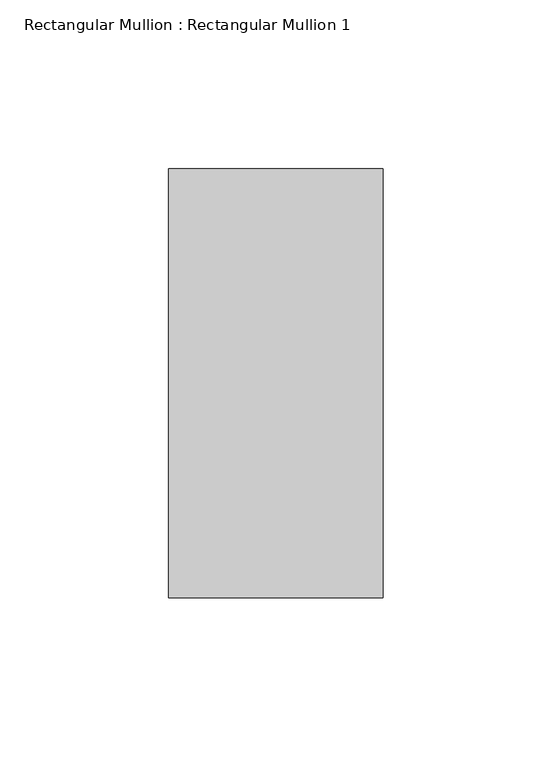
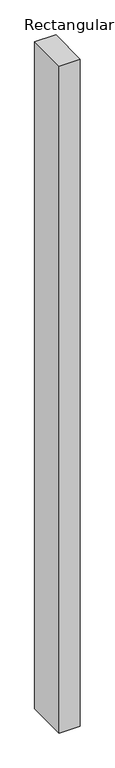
"""IFC4 building model written with IfcOpenShell, lengths in millimetres: member geometry, Rectangular Mullion : Rectangular Mullion 1."""

import ifcopenshell
import ifcopenshell.guid

model = None  # the IFC model being written
_history = None  # IfcOwnerHistory: only IFC2X3 demands one
_inside = {}  # id of a spatial element -> (the spatial element, [elements in it])
_under = {}  # id of a project, library or spatial element -> (it, [spatial elements below it])
_declared = {}  # id of a project -> (the project, [libraries it declares])
_typed = {}  # id of a type object -> (the type object, [elements of that type])
_made_of = {}  # id of a material, layer set ... -> (it, [elements and type objects made of it])


def new_model(schema):
    """Start an empty IFC model of exactly this schema.

    Asked for "IFC4X3", IfcOpenShell would pick the latest addendum, in which some entities
    have other attributes; the version numbers below select the first issue.
    IFC2X3 requires an IfcOwnerHistory on every rooted entity: one is made here for all.
    """
    global model, _history
    if schema == "IFC4X3":
        model = ifcopenshell.file(schema_version=(4, 3, 0, 0))
    else:
        model = ifcopenshell.file(schema=schema)
    _inside.clear()
    _under.clear()
    _declared.clear()
    _typed.clear()
    _made_of.clear()
    _history = None
    if model.schema == "IFC2X3":
        org = make("IfcOrganization", Name="unknown")
        user = make(
            "IfcPersonAndOrganization",
            ThePerson=make("IfcPerson", FamilyName="unknown"),
            TheOrganization=org,
        )
        app = make(
            "IfcApplication",
            ApplicationDeveloper=org,
            Version="unknown",
            ApplicationFullName="unknown",
            ApplicationIdentifier="unknown",
        )
        _history = make(
            "IfcOwnerHistory",
            OwningUser=user,
            OwningApplication=app,
            ChangeAction="ADDED",
            CreationDate=0,
        )
    return model


def make(cls, **values):
    """One entity of the class cls with the attributes given. An attribute that is None is left unset."""
    return model.create_entity(
        cls, **{name: value for name, value in values.items() if value is not None}
    )


def rooted(cls, **values):
    """An entity with a GlobalId (a new one), such as an element, a storey or a relation."""
    return make(cls, GlobalId=ifcopenshell.guid.new(), OwnerHistory=_history, **values)


def si_unit(unit_type, name, prefix=None):
    """IfcSIUnit, for example si_unit("LENGTHUNIT", "METRE", prefix="MILLI")."""
    return make("IfcSIUnit", UnitType=unit_type, Prefix=prefix, Name=name)


def assignment(units):
    """IfcUnitAssignment: the units of a project."""
    return None if units is None else make("IfcUnitAssignment", Units=units)


def point(xyz):
    """IfcCartesianPoint."""
    return None if xyz is None else make("IfcCartesianPoint", Coordinates=xyz)


def direction(xyz):
    """IfcDirection."""
    return None if xyz is None else make("IfcDirection", DirectionRatios=xyz)


def frame(location, z_axis=None, x_axis=None):
    """IfcAxis2Placement3D, a coordinate frame: its origin and axes. An axis left out is left unset."""
    return make(
        "IfcAxis2Placement3D",
        Location=point(location),
        Axis=direction(z_axis),
        RefDirection=direction(x_axis),
    )


def origin():
    """The frame at (0, 0, 0) with its axes left unset."""
    return frame((0.0, 0.0, 0.0))


def place(relative_to, where):
    """IfcLocalPlacement: puts the frame where relative to a parent placement (None: the world)."""
    return make(
        "IfcLocalPlacement", PlacementRelTo=relative_to, RelativePlacement=where
    )


def context(
    kind, dimensions, precision=None, world=None, true_north=None, identifier=None
):
    """IfcGeometricRepresentationContext, for example the 3D "Model" context."""
    return make(
        "IfcGeometricRepresentationContext",
        ContextIdentifier=identifier,
        ContextType=kind,
        CoordinateSpaceDimension=dimensions,
        Precision=precision,
        WorldCoordinateSystem=world,
        TrueNorth=true_north,
    )


def project(units=None, contexts=None):
    """IfcProject with its units and contexts."""
    return rooted(
        "IfcProject",
        Name="project",
        RepresentationContexts=contexts,
        UnitsInContext=assignment(units),
    )


def spatial(cls, under=None, at=None, **own):
    """A site, building, storey or space (cls), placed at a placement, below another one or the project."""
    s = rooted(cls, ObjectPlacement=at, **own)
    if under is not None:
        _under.setdefault(under.id(), (under, []))[1].append(s)
    return s


def polyline(points):
    """IfcPolyline through the points."""
    return make("IfcPolyline", Points=[point(p) for p in points])


def outline(outer, holes=None, kind="AREA"):
    """IfcArbitraryClosedProfileDef: a profile drawn as a closed curve; with holes, ...WithVoids."""
    if holes is None:
        return make("IfcArbitraryClosedProfileDef", ProfileType=kind, OuterCurve=outer)
    return make(
        "IfcArbitraryProfileDefWithVoids",
        ProfileType=kind,
        OuterCurve=outer,
        InnerCurves=holes,
    )


def extrude(swept, where, along, depth):
    """IfcExtrudedAreaSolid: the profile swept, set in the frame where, extruded along a direction by depth."""
    return make(
        "IfcExtrudedAreaSolid",
        SweptArea=swept,
        Position=where,
        ExtrudedDirection=direction(along),
        Depth=depth,
    )


def shape(context_of_items, identifier, shape_type, items):
    """IfcShapeRepresentation: the items that make up one representation, for example the "Body"."""
    return make(
        "IfcShapeRepresentation",
        ContextOfItems=context_of_items,
        RepresentationIdentifier=identifier,
        RepresentationType=shape_type,
        Items=items,
    )


def source(mapping_origin, context_of_items, identifier, shape_type, items):
    """IfcRepresentationMap: a shape defined once, which mapped items show again and again."""
    return make(
        "IfcRepresentationMap",
        MappingOrigin=mapping_origin,
        MappedRepresentation=shape(context_of_items, identifier, shape_type, items),
    )


def transform(
    local_origin,
    x_axis=None,
    y_axis=None,
    z_axis=None,
    scale=None,
    scale2=None,
    scale3=None,
    uniform=True,
):
    """IfcCartesianTransformationOperator3D, or its non-uniform kind. x_axis, y_axis, z_axis: its Axis1, 2, 3."""
    if uniform:
        return make(
            "IfcCartesianTransformationOperator3D",
            Axis1=direction(x_axis),
            Axis2=direction(y_axis),
            LocalOrigin=point(local_origin),
            Scale=scale,
            Axis3=direction(z_axis),
        )
    return make(
        "IfcCartesianTransformationOperator3DnonUniform",
        Axis1=direction(x_axis),
        Axis2=direction(y_axis),
        LocalOrigin=point(local_origin),
        Scale=scale,
        Axis3=direction(z_axis),
        Scale2=scale2,
        Scale3=scale3,
    )


def mapped(mapping_source, mapping_target):
    """IfcMappedItem: shows the shape of a source again, moved by a transform."""
    return make(
        "IfcMappedItem", MappingSource=mapping_source, MappingTarget=mapping_target
    )


def made_of(thing, what):
    """Note that an element or type object is made of a material, layer set ...; save() writes the relation."""
    if what is not None:
        _made_of.setdefault(what.id(), (what, []))[1].append(thing)
    return thing


def element(
    cls,
    number,
    at=None,
    inside=None,
    cuts=None,
    type_object=None,
    material=None,
    context=None,
    identifier="Body",
    shape_type=None,
    held_by="IfcProductDefinitionShape",
    body=None,
    shapes=None,
    **own,
):
    """One element of the class cls, such as IfcWall. Its Tag is "e" and its number.

    at: its placement. inside: the storey or other place that contains it. cuts: it is an
    opening in that element (IfcRelVoidsElement). A single representation is given by context,
    identifier, shape_type and body (its items); several are given by shapes. held_by: the class
    of the entity that holds the representations. save() writes the other relations.
    """
    e = rooted(cls, Tag="e%d" % number, ObjectPlacement=at, **own)
    if body is not None:
        shapes = [shape(context, identifier, shape_type, body)]
    if shapes is not None:
        e.Representation = make(held_by, Representations=shapes)
    if inside is not None:
        _inside.setdefault(inside.id(), (inside, []))[1].append(e)
    if cuts is not None:
        rooted(
            "IfcRelVoidsElement", RelatingBuildingElement=cuts, RelatedOpeningElement=e
        )
    if type_object is not None:
        _typed.setdefault(type_object.id(), (type_object, []))[1].append(e)
    return made_of(e, material)


def aggregate(whole, parts):
    """IfcRelAggregates: a whole, such as a stair, and the parts it consists of."""
    return rooted("IfcRelAggregates", RelatingObject=whole, RelatedObjects=parts)


def save(model, path):
    """Write the relations noted so far, then the file.

    IfcRelAggregates (storeys below a building ...), IfcRelContainedInSpatialStructure (elements
    in a storey), IfcRelDefinesByType, IfcRelAssociatesMaterial and IfcRelDeclares: one each for
    every whole, place, type object, material and project.
    """
    for whole, parts in _under.values():
        aggregate(whole, parts)
    for where, things in _inside.values():
        rooted(
            "IfcRelContainedInSpatialStructure",
            RelatedElements=things,
            RelatingStructure=where,
        )
    for kind, things in _typed.values():
        rooted("IfcRelDefinesByType", RelatedObjects=things, RelatingType=kind)
    for what, things in _made_of.values():
        rooted("IfcRelAssociatesMaterial", RelatedObjects=things, RelatingMaterial=what)
    for by, libraries in _declared.values():
        rooted("IfcRelDeclares", RelatingContext=by, RelatedDefinitions=libraries)
    model.write(path)


def rectangular_mullion_rectangular_mullion_1_e4518843(model_context):
    return source(origin(), model_context, "Body", "SweptSolid", [
        extrude(outline(polyline([(0.0, 63.5), (0.0, -63.5), (-63.5, -63.5), (-63.5, 63.5), (0.0, 63.5)])), frame((0.0, 0.0, -2116.8895883), z_axis=(0.0, 0.0, 1.0), x_axis=(1.0, 0.0, 0.0)), (0.0, 0.0, 1.0), 2116.8895883),
    ])


if __name__ == "__main__":
    model = new_model("IFC4")
    model_context = context("Model", 3, world=origin())
    ifc_project = project(units=[si_unit("LENGTHUNIT", "METRE", prefix="MILLI")], contexts=[model_context])
    site = spatial("IfcSite", under=ifc_project)
    building = spatial("IfcBuilding", under=site)
    placement = place(None, origin())
    rectangular_mullion_rectangular_mullion_1_shape = rectangular_mullion_rectangular_mullion_1_e4518843(model_context)
    element("IfcMember", 1, ObjectType="Rectangular Mullion : Rectangular Mullion 1", at=placement, inside=building, context=model_context, shape_type="MappedRepresentation", body=[
        mapped(rectangular_mullion_rectangular_mullion_1_shape, transform((0.0, 0.0, 0.0), x_axis=(1.0, 0.0, 0.0), y_axis=(0.0, 1.0, 0.0), z_axis=(0.0, 0.0, 1.0))),
    ])
    save(model, "model.ifc")
